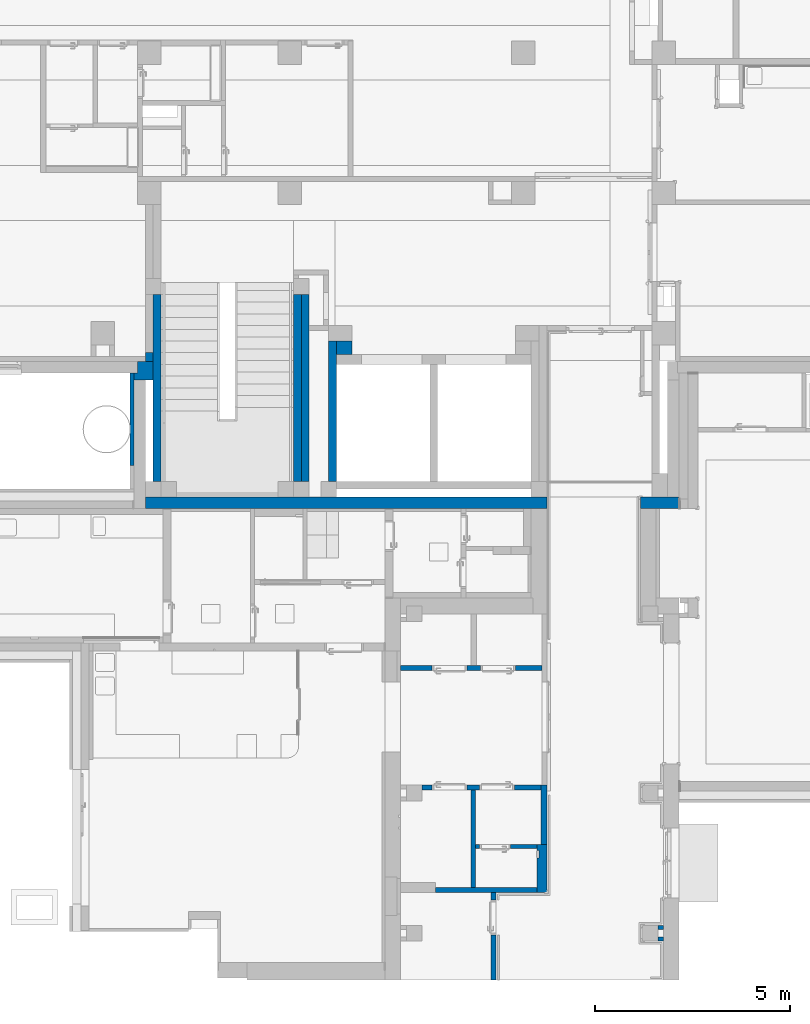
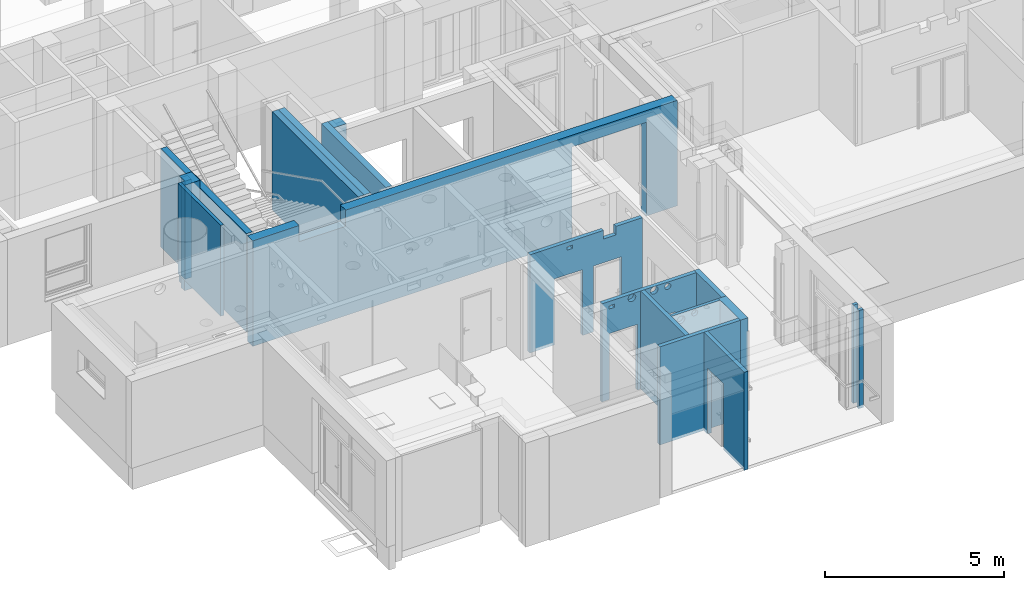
# One storey, part 29 of 140: 19 walls, 17 openings.
"""IFC4 building model written with IfcOpenShell, lengths in metres."""

from ifc_helpers import new_model, entity, si_unit, converted_unit, derived_unit, frame, frame_2d, origin, origin_with_axes, place, context, subcontext, project, spatial, polyline, rectangle, outline, extrude, material, layer, layer_set, layer_usage, element, save


model = new_model("IFC4")

# Units and contexts
model_context = context("Model", 3, precision=1e-05, world=origin())
body_context = subcontext(model_context, "Body", "Model", "MODEL_VIEW")
ifc_project = project(units=[si_unit("LENGTHUNIT", "METRE"), si_unit("AREAUNIT", "SQUARE_METRE"), si_unit("VOLUMEUNIT", "CUBIC_METRE"), si_unit("MASSUNIT", "GRAM", prefix="KILO"), converted_unit("PLANEANGLEUNIT", "DEGREE", entity("IfcPlaneAngleMeasure", 0.0174532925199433), si_unit("PLANEANGLEUNIT", "RADIAN"), dimensions=[0, 0, 0, 0, 0, 0, 0]), derived_unit("THERMALTRANSMITTANCEUNIT", [(si_unit("POWERUNIT", "WATT"), 1), (si_unit("THERMODYNAMICTEMPERATUREUNIT", "KELVIN"), -1), (si_unit("LENGTHUNIT", "METRE"), -2)]), derived_unit("VOLUMETRICFLOWRATEUNIT", [(si_unit("LENGTHUNIT", "METRE"), 3), (converted_unit("TIMEUNIT", "hour", entity("IfcTimeMeasure", 3600.0), si_unit("TIMEUNIT", "SECOND"), dimensions=[0, 0, 1, 0, 0, 0, 0]), -1), (si_unit("LENGTHUNIT", "METRE"), -1)])], contexts=[model_context])

# Site, building, storey
site_placement = place(None, origin())
site = spatial("IfcSite", under=ifc_project, at=site_placement, Name="3. ASŘ", CompositionType="ELEMENT")
building_placement = place(site_placement, origin())
building = spatial("IfcBuilding", under=site, at=building_placement, Name="Pavilon C", CompositionType="ELEMENT")
storey_placement = place(building_placement, origin())
storey = spatial("IfcBuildingStorey", under=building, at=storey_placement, Name="Půdorys 1.NP", CompositionType="ELEMENT", Elevation=0.0)

# Wall, openings
ifc_material_1 = material(Name="ZELEZOBETONOVÁ KCE")
ifc_layer_1 = layer(ifc_material_1, 0.3)
ifc_layer_set_1 = layer_set([ifc_layer_1])
ifc_layer_usage_1 = layer_usage(ifc_layer_set_1, "AXIS2", "POSITIVE", 0.0)
wall_1_placement = place(storey_placement, frame((30.65, -4.5, -0.1)))
wall_1 = element("IfcWall", 1, at=wall_1_placement, inside=storey, material=ifc_layer_usage_1, Name="ZELEZOBETONOVÁ KCE", context=body_context, shape_type="SweptSolid", body=[
    extrude(rectangle(XDim=13.7, YDim=0.3, at=frame_2d((6.85, 0.15), x_axis=(1.0, 0.0))), origin_with_axes(), (0.0, 0.0, 1.0), 3.6),
])
opening_1_placement = place(wall_1_placement, frame((10.3, 0.0, 0.0), z_axis=(0.0, 1.0, 0.0), x_axis=(0.0, 0.0, 1.0)))
element("IfcOpeningElement", 2, at=opening_1_placement, cuts=wall_1, Name="Dveřní otvor", ObjectType="Opening", context=body_context, shape_type="SweptSolid", body=[
    extrude(outline(polyline([(0.0, 2.4), (3.2, 2.4), (3.2, 0.0), (0.0, 0.0), (0.0, 2.4)])), origin_with_axes(), (0.0, 0.0, 1.0), 0.3),
])
opening_2_placement = place(wall_1_placement, frame((1.50000000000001, 0.0, 3.05), z_axis=(0.0, 1.0, 0.0), x_axis=(0.0, 0.0, 1.0)))
element("IfcOpeningElement", 3, at=opening_2_placement, cuts=wall_1, Name="Okenní otvor", ObjectType="Opening", context=body_context, shape_type="SweptSolid", body=[
    extrude(outline(polyline([(0.0, 1.5), (2.0, 1.5), (2.0, 0.0), (0.0, 0.0), (0.0, 1.5)])), origin_with_axes(), (0.0, 0.0, 1.0), 0.3),
])

# Walls
ifc_material_2 = material(Name="ZDIVO Z CDm")
ifc_layer_2 = layer(ifc_material_2, 0.35)
ifc_layer_set_2 = layer_set([ifc_layer_2])
ifc_layer_usage_2 = layer_usage(ifc_layer_set_2, "AXIS2", "POSITIVE", 0.0)
wall_2_placement = place(storey_placement, frame((35.95, -0.200000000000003, -0.1), z_axis=(0.0, 0.0, 1.0), x_axis=(-1.0, 0.0, 0.0)))
element("IfcWall", 4, at=wall_2_placement, inside=storey, material=ifc_layer_usage_2, Name="ZDIVO Z CDm", context=body_context, shape_type="SweptSolid", body=[
    extrude(rectangle(XDim=0.4, YDim=0.35, at=frame_2d((0.2, 0.175), x_axis=(1.0, 0.0))), origin_with_axes(), (0.0, 0.0, 1.0), 3.35),
])
ifc_material_3 = material(Name="ZDIVO Z CDm")
ifc_layer_3 = layer(ifc_material_3, 0.2)
ifc_layer_set_3 = layer_set([ifc_layer_3])
ifc_layer_usage_3 = layer_usage(ifc_layer_set_3, "AXIS2", "POSITIVE", 0.0)
wall_3_placement = place(storey_placement, frame((30.65, -0.499999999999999, -0.1), z_axis=(0.0, 0.0, 1.0), x_axis=(0.0, -1.0, 0.0)))
element("IfcWall", 5, at=wall_3_placement, inside=storey, material=ifc_layer_usage_3, Name="ZDIVO Z CDm", context=body_context, shape_type="SweptSolid", body=[
    extrude(rectangle(XDim=0.220000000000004, YDim=0.2, at=frame_2d((0.110000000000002, 0.1), x_axis=(1.0, 0.0))), origin_with_axes(), (0.0, 0.0, 1.0), 3.35),
])
ifc_material_4 = material(Name="ZELEZOBETONOVÁ KCE")
ifc_layer_4 = layer(ifc_material_4, 0.2)
ifc_layer_set_4 = layer_set([ifc_layer_4])
ifc_layer_usage_4 = layer_usage(ifc_layer_set_4, "AXIS2", "POSITIVE", 0.0)
wall_4_placement = place(storey_placement, frame((34.45, 1.0, -0.1), z_axis=(0.0, 0.0, 1.0), x_axis=(0.0, -1.0, 0.0)))
element("IfcWall", 6, at=wall_4_placement, inside=storey, material=ifc_layer_usage_4, Name="ZELEZOBETONOVÁ KCE", context=body_context, shape_type="SweptSolid", body=[
    extrude(rectangle(XDim=4.8, YDim=0.2, at=frame_2d((2.4, 0.1), x_axis=(1.0, 0.0))), origin_with_axes(), (0.0, 0.0, 1.0), 3.35),
])
ifc_material_5 = material(Name="ZELEZOBETONOVÁ KCE")
ifc_layer_5 = layer(ifc_material_5, 0.2)
ifc_layer_set_5 = layer_set([ifc_layer_5])
ifc_layer_usage_5 = layer_usage(ifc_layer_set_5, "AXIS2", "POSITIVE", 0.0)
wall_5_placement = place(storey_placement, frame((31.05, -3.79999999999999, -0.1), z_axis=(0.0, 0.0, 1.0), x_axis=(0.0, 1.0, 0.0)))
element("IfcWall", 7, at=wall_5_placement, inside=storey, material=ifc_layer_usage_5, Name="ZELEZOBETONOVÁ KCE", context=body_context, shape_type="SweptSolid", body=[
    extrude(rectangle(XDim=4.79999999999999, YDim=0.2, at=frame_2d((2.4, 0.1), x_axis=(1.0, 0.0))), origin_with_axes(), (0.0, 0.0, 1.0), 3.35),
])
ifc_material_6 = material(Name="ZELEZOBETONOVÁ KCE")
ifc_layer_6 = layer(ifc_material_6, 0.2)
ifc_layer_set_6 = layer_set([ifc_layer_6])
ifc_layer_usage_6 = layer_usage(ifc_layer_set_6, "AXIS2", "POSITIVE", 0.0)
wall_6_placement = place(storey_placement, frame((34.65, 1.0, -0.1), z_axis=(0.0, 0.0, 1.0), x_axis=(0.0, -1.0, 0.0)))
element("IfcWall", 8, at=wall_6_placement, inside=storey, material=ifc_layer_usage_6, Name="ZELEZOBETONOVÁ KCE", context=body_context, shape_type="SweptSolid", body=[
    extrude(rectangle(XDim=4.8, YDim=0.2, at=frame_2d((2.4, 0.1), x_axis=(1.0, 0.0))), origin_with_axes(), (0.0, 0.0, 1.0), 3.35),
])
ifc_material_7 = material(Name="ZELEZOBETONOVÁ KCE")
ifc_layer_7 = layer(ifc_material_7, 0.2)
ifc_layer_set_7 = layer_set([ifc_layer_7])
ifc_layer_usage_7 = layer_usage(ifc_layer_set_7, "AXIS2", "POSITIVE", 0.0)
wall_7_placement = place(storey_placement, frame((35.55, -3.80000000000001, -0.1), z_axis=(0.0, 0.0, 1.0), x_axis=(0.0, 1.0, 0.0)))
element("IfcWall", 9, at=wall_7_placement, inside=storey, material=ifc_layer_usage_7, Name="ZELEZOBETONOVÁ KCE", context=body_context, shape_type="SweptSolid", body=[
    extrude(rectangle(XDim=3.60000000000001, YDim=0.2, at=frame_2d((1.8, 0.1), x_axis=(1.0, 0.0))), origin_with_axes(), (0.0, 0.0, 1.0), 3.35),
])
ifc_material_8 = material(Name="ZDIVO Z CDm")
ifc_layer_8 = layer(ifc_material_8, 0.48)
ifc_layer_set_8 = layer_set([ifc_layer_8])
ifc_layer_usage_8 = layer_usage(ifc_layer_set_8, "AXIS2", "POSITIVE", 0.0)
wall_8_placement = place(storey_placement, frame((30.35, -1.2, -0.1)))
element("IfcWall", 10, at=wall_8_placement, inside=storey, material=ifc_layer_usage_8, Name="ZDIVO Z CDm", context=body_context, shape_type="SweptSolid", body=[
    extrude(outline(polyline([(0.0, 0.0), (0.5, 0.0), (0.5, 0.48), (0.1, 0.48), (0.1, 0.18), (0.0, 0.18), (0.0, 0.0)])), origin_with_axes(), (0.0, 0.0, 1.0), 3.6),
])
ifc_material_9 = material(Name="STÁVAJÍC KCE")
ifc_layer_9 = layer(ifc_material_9, 0.1)
ifc_layer_set_9 = layer_set([ifc_layer_9])
ifc_layer_usage_9 = layer_usage(ifc_layer_set_9, "AXIS2", "POSITIVE", 0.0)
wall_9_placement = place(storey_placement, frame((43.95, -15.2, -0.1), z_axis=(0.0, 0.0, 1.0), x_axis=(-1.0, 0.0, 0.0)))
element("IfcWall", 11, at=wall_9_placement, inside=storey, material=ifc_layer_usage_9, Name="STÁVAJÍCÍ KCE", context=body_context, shape_type="SweptSolid", body=[
    extrude(rectangle(XDim=0.15, YDim=0.1, at=frame_2d((0.075, 0.05), x_axis=(1.0, 0.0))), origin_with_axes(), (0.0, 0.0, 1.0), 3.35),
])
ifc_material_10 = material(Name="STÁVAJÍC KCE")
ifc_layer_10 = layer(ifc_material_10, 0.1)
ifc_layer_set_10 = layer_set([ifc_layer_10])
ifc_layer_usage_10 = layer_usage(ifc_layer_set_10, "AXIS2", "POSITIVE", 0.0)
wall_10_placement = place(storey_placement, frame((43.8, -15.6, -0.1)))
element("IfcWall", 12, at=wall_10_placement, inside=storey, material=ifc_layer_usage_10, Name="STÁVAJÍCÍ KCE", context=body_context, shape_type="SweptSolid", body=[
    extrude(rectangle(XDim=0.15, YDim=0.1, at=frame_2d((0.075, 0.05), x_axis=(1.0, 0.0))), origin_with_axes(), (0.0, 0.0, 1.0), 3.35),
])
ifc_material_11 = material(Name="EPS")
ifc_layer_11 = layer(ifc_material_11, 0.1)
ifc_layer_set_11 = layer_set([ifc_layer_11])
ifc_layer_usage_11 = layer_usage(ifc_layer_set_11, "AXIS2", "POSITIVE", 0.0)
wall_11_placement = place(storey_placement, frame((30.35, -3.4, 0.4), z_axis=(0.0, 0.0, 1.0), x_axis=(0.0, 1.0, 0.0)))
element("IfcWall", 13, at=wall_11_placement, inside=storey, material=ifc_layer_usage_11, Name="EPS", context=body_context, shape_type="SweptSolid", body=[
    extrude(rectangle(XDim=2.38, YDim=0.1, at=frame_2d((1.19, 0.05), x_axis=(1.0, 0.0))), origin_with_axes(), (0.0, 0.0, 1.0), 3.1),
])
ifc_material_12 = material(Name="SDK - 1 KCE + DVOJITÉ OPLÁŠTĚNÍ")
ifc_layer_12 = layer(ifc_material_12, 0.15)
ifc_layer_set_12 = layer_set([ifc_layer_12])
ifc_layer_usage_12 = layer_usage(ifc_layer_set_12, "AXIS2", "POSITIVE", 0.0)
wall_12_placement = place(storey_placement, frame((40.95, -13.125, -0.1), z_axis=(0.0, 0.0, 1.0), x_axis=(0.0, 1.0, 0.0)))
element("IfcWall", 14, at=wall_12_placement, inside=storey, material=ifc_layer_usage_12, Name="SDK - 1 KCE + DVOJITÉ OPLÁŠTĚNÍ", context=body_context, shape_type="SweptSolid", body=[
    extrude(rectangle(XDim=1.52500000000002, YDim=0.15, at=frame_2d((0.76250000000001, 0.075), x_axis=(1.0, 0.0))), origin_with_axes(), (0.0, 0.0, 1.0), 3.35),
])

# Wall, opening
ifc_material_13 = material(Name="SDK - 2 KCE + DVOJITÉ OPLÁŠTĚNÍ")
ifc_layer_13 = layer(ifc_material_13, 0.25)
ifc_layer_set_13 = layer_set([ifc_layer_13])
ifc_layer_usage_13 = layer_usage(ifc_layer_set_13, "AXIS2", "POSITIVE", 0.0)
wall_13_placement = place(storey_placement, frame((40.95, -14.3500000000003, -0.1), z_axis=(0.0, 0.0, 1.0), x_axis=(0.0, 1.0, 0.0)))
wall_13 = element("IfcWall", 15, at=wall_13_placement, inside=storey, material=ifc_layer_usage_13, Name="SDK - 2 KCE + DVOJITÉ OPLÁŠTĚNÍ", context=body_context, shape_type="SweptSolid", body=[
    extrude(rectangle(XDim=1.22500000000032, YDim=0.25, at=frame_2d((0.612500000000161, 0.125), x_axis=(1.0, 0.0))), origin_with_axes(), (0.0, 0.0, 1.0), 3.35),
])
opening_3_placement = place(wall_13_placement, frame((1.07499999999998, 0.25, 1.1), z_axis=(0.0, -1.0, 0.0), x_axis=(0.0, 0.0, 1.0)))
element("IfcOpeningElement", 16, at=opening_3_placement, cuts=wall_13, Name="Stěnová nika", ObjectType="Opening", context=body_context, shape_type="SweptSolid", body=[
    extrude(outline(polyline([(0.0, 0.2), (0.2, 0.2), (0.2, 0.0), (0.0, 0.0), (0.0, 0.2)])), origin_with_axes(), (0.0, 0.0, 1.0), 0.05),
])

# Walls
ifc_material_14 = material(Name="SDK - 1 KCE + DVOJITÉ OPLÁŠTĚNÍ")
ifc_layer_14 = layer(ifc_material_14, 0.125)
ifc_layer_set_14 = layer_set([ifc_layer_14])
ifc_layer_usage_14 = layer_usage(ifc_layer_set_14, "AXIS2", "POSITIVE", -0.125)
wall_14_placement = place(storey_placement, frame((40.7, -14.2250000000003, -0.1), z_axis=(0.0, 0.0, 1.0), x_axis=(-1.0, 0.0, 0.0)))
element("IfcWall", 17, at=wall_14_placement, inside=storey, material=ifc_layer_usage_14, Name="SDK - 1 KCE + DVOJITÉ OPLÁŠTĚNÍ", context=body_context, shape_type="SweptSolid", body=[
    extrude(rectangle(XDim=2.6, YDim=0.125, at=frame_2d((1.3, 0.0625), x_axis=(1.0, 0.0))), origin_with_axes(), (0.0, 0.0, 1.0), 3.35),
])
ifc_material_15 = material(Name="SDK - 1 KCE + DVOJITÉ OPLÁŠTĚNÍ")
ifc_layer_15 = layer(ifc_material_15, 0.125)
ifc_layer_set_15 = layer_set([ifc_layer_15])
ifc_layer_usage_15 = layer_usage(ifc_layer_set_15, "AXIS2", "POSITIVE", -0.075)
wall_15_placement = place(storey_placement, frame((39.125, -14.2250000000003, -0.1), z_axis=(0.0, 0.0, 1.0), x_axis=(0.0, 1.0, 0.0)))
element("IfcWall", 18, at=wall_15_placement, inside=storey, material=ifc_layer_usage_15, Name="SDK - 1 KCE + DVOJITÉ OPLÁŠTĚNÍ", context=body_context, shape_type="SweptSolid", body=[
    extrude(rectangle(XDim=2.50000000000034, YDim=0.125, at=frame_2d((1.25000000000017, 0.0625), x_axis=(1.0, 0.0))), origin_with_axes(), (0.0, 0.0, 1.0), 3.35),
])

# Wall, openings
ifc_material_16 = material(Name="SDK - 1 KCE + DVOJITÉ OPLÁŠTĚNÍ")
ifc_layer_16 = layer(ifc_material_16, 0.0999999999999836)
ifc_layer_set_16 = layer_set([ifc_layer_16])
ifc_layer_usage_16 = layer_usage(ifc_layer_set_16, "AXIS2", "POSITIVE", -0.1)
wall_16_placement = place(storey_placement, frame((40.7, -13.125, -0.1), z_axis=(0.0, 0.0, 1.0), x_axis=(-1.0, -9.00832847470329e-14, 0.0)))
wall_16 = element("IfcWall", 19, at=wall_16_placement, inside=storey, material=ifc_layer_usage_16, Name="SDK - 1 KCE + DVOJITÉ OPLÁŠTĚNÍ", context=body_context, shape_type="SweptSolid", body=[
    extrude(rectangle(XDim=1.575, YDim=0.0999999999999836, at=frame_2d((0.7875, 0.0499999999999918), x_axis=(1.0, 0.0))), origin_with_axes(), (0.0, 0.0, 1.0), 3.35),
])
opening_4_placement = place(wall_16_placement, frame((1.47500000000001, 0.0999999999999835, 0.0), z_axis=(-9.09494701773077e-14, -1.0, 0.0), x_axis=(0.0, 0.0, 1.0)))
element("IfcOpeningElement", 20, at=opening_4_placement, cuts=wall_16, Name="Dveřní otvor", ObjectType="Opening", context=body_context, shape_type="SweptSolid", body=[
    extrude(outline(polyline([(0.0, 0.8), (2.25, 0.8), (2.25, 0.0), (0.0, 0.0), (0.0, 0.8)])), origin_with_axes(), (0.0, 0.0, 1.0), 0.0999999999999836),
])
opening_5_placement = place(wall_16_placement, frame((1.14000005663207, -1.90214371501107e-14, 3.005), z_axis=(9.09494701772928e-14, 1.0, 0.0), x_axis=(0.0, 0.0, 1.0)))
element("IfcOpeningElement", 21, at=opening_5_placement, cuts=wall_16, Name="VZT", ObjectType="Opening", context=body_context, shape_type="SweptSolid", body=[
    extrude(outline(polyline([(0.12499999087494, 0.25), (0.138066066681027, 0.249315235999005), (0.150988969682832, 0.247268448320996), (0.163627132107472, 0.243882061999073), (0.175842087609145, 0.239193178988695), (0.187500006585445, 0.233253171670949), (0.198473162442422, 0.226127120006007), (0.208641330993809, 0.217893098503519), (0.217893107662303, 0.208641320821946), (0.226127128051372, 0.198473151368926), (0.233253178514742, 0.187499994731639), (0.239193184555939, 0.175842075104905), (0.243882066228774, 0.163627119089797), (0.247268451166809, 0.150988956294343), (0.249315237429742, 0.138066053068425), (0.25, 0.124999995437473), (0.249315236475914, 0.111933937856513), (0.247268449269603, 0.0990110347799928), (0.243882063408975, 0.0863728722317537), (0.239193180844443, 0.0741579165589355), (0.233253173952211, 0.0624999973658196), (0.226127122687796, 0.0515268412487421), (0.217893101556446, 0.041358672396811), (0.208641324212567, 0.0321068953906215), (0.198473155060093, 0.0238728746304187), (0.187499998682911, 0.0167468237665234), (0.175842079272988, 0.0108068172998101), (0.163627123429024, 0.00611793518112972), (0.150988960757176, 0.00273154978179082), (0.138066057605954, 0.000684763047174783), (0.125, 0.0), (0.111933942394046, 0.000684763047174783), (0.0990110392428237, 0.00273154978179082), (0.0863728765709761, 0.00611793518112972), (0.0741579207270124, 0.0108068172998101), (0.0625000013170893, 0.0167468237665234), (0.0515268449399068, 0.0238728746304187), (0.0413586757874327, 0.0321068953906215), (0.0321068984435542, 0.041358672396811), (0.0238728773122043, 0.0515268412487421), (0.0167468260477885, 0.0624999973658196), (0.0108068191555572, 0.0741579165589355), (0.00611793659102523, 0.0863728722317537), (0.00273155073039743, 0.0990110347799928), (0.000684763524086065, 0.111933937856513), (0.0, 0.124999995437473), (0.00068476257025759, 0.138066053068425), (0.00273154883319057, 0.150988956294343), (0.00611793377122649, 0.163627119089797), (0.0108068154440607, 0.175842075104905), (0.0167468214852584, 0.187499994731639), (0.0238728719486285, 0.198473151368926), (0.0321068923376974, 0.208641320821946), (0.0413586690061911, 0.217893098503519), (0.0515268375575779, 0.226127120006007), (0.0624999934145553, 0.233253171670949), (0.074157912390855, 0.239193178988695), (0.0863728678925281, 0.243882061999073), (0.0990110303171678, 0.247268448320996), (0.111933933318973, 0.249315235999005), (0.12499999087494, 0.25)])), origin_with_axes(), (0.0, 0.0, 1.0), 0.1),
])
opening_6_placement = place(wall_16_placement, frame((0.725, -5.28373112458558e-15, 3.11), z_axis=(8.98126018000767e-14, 1.0, 0.0), x_axis=(0.0, 0.0, 1.0)))
element("IfcOpeningElement", 22, at=opening_6_placement, cuts=wall_16, Name="ZTI", ObjectType="Opening", context=body_context, shape_type="SweptSolid", body=[
    extrude(outline(polyline([(0.0999999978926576, 0.2), (0.110452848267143, 0.199452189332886), (0.120791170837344, 0.197814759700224), (0.130901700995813, 0.195105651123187), (0.14067366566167, 0.191354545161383), (0.150000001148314, 0.186602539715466), (0.15877852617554, 0.180901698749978), (0.166913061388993, 0.174314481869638), (0.174314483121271, 0.166913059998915), (0.180901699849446, 0.158778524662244), (0.186602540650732, 0.149999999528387), (0.191354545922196, 0.140673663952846), (0.195105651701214, 0.130901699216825), (0.197814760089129, 0.120791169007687), (0.19945218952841, 0.110452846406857), (0.2, 0.100000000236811), (0.199452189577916, 0.0895471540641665), (0.197814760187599, 0.0792088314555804), (0.195105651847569, 0.0690983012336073), (0.191354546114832, 0.0593263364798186), (0.186602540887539, 0.0500000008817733), (0.180901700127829, 0.0412214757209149), (0.174314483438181, 0.0330869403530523), (0.166913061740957, 0.0256855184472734), (0.158778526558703, 0.0190983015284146), (0.150000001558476, 0.0133974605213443), (0.140673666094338, 0.00864545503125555), (0.130901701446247, 0.00489434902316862), (0.120791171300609, 0.00218524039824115), (0.110452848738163, 0.000547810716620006), (0.0999999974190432, 0.0), (0.0895471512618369, 0.000547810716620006), (0.0792088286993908, 0.00218524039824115), (0.069098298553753, 0.00489434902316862), (0.0593263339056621, 0.00864545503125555), (0.0499999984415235, 0.0133974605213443), (0.0412214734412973, 0.0190983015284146), (0.0330869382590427, 0.0256855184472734), (0.0256855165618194, 0.0330869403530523), (0.0190982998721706, 0.0412214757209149), (0.0133974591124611, 0.0500000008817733), (0.00864545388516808, 0.0593263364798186), (0.00489434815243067, 0.0690983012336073), (0.00218523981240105, 0.0792088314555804), (0.00054781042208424, 0.0895471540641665), (0.0, 0.100000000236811), (0.00054781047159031, 0.110452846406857), (0.00218523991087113, 0.120791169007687), (0.00489434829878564, 0.130901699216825), (0.00864545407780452, 0.140673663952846), (0.013397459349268, 0.149999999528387), (0.0190983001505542, 0.158778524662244), (0.0256855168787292, 0.166913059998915), (0.0330869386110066, 0.174314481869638), (0.0412214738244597, 0.180901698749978), (0.0499999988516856, 0.186602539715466), (0.0593263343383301, 0.191354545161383), (0.0690982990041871, 0.195105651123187), (0.0792088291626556, 0.197814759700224), (0.0895471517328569, 0.199452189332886), (0.0999999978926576, 0.2)])), origin_with_axes(), (0.0, 0.0, 1.0), 0.1),
])

ifc_material_17 = material(Name="SDK - 1 KCE + DVOJITÉ OPLÁŠTĚNÍ")
ifc_layer_17 = layer(ifc_material_17, 0.125)
ifc_layer_set_17 = layer_set([ifc_layer_17])
ifc_layer_usage_17 = layer_usage(ifc_layer_set_17, "AXIS2", "POSITIVE", -0.125)
wall_17_placement = place(storey_placement, frame((40.825, -8.525, -0.1), z_axis=(0.0, 0.0, 1.0), x_axis=(-1.0, 0.0, 0.0)))
wall_17 = element("IfcWall", 23, at=wall_17_placement, inside=storey, material=ifc_layer_usage_17, Name="SDK - 1 KCE + DVOJITÉ OPLÁŠTĚNÍ", context=body_context, shape_type="SweptSolid", body=[
    extrude(rectangle(XDim=3.625, YDim=0.125, at=frame_2d((1.8125, 0.0625), x_axis=(1.0, 0.0))), origin_with_axes(), (0.0, 0.0, 1.0), 3.35),
])
opening_7_placement = place(wall_17_placement, frame((1.92499999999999, 0.0, 0.0), z_axis=(0.0, 1.0, 0.0), x_axis=(0.0, 0.0, 1.0)))
element("IfcOpeningElement", 24, at=opening_7_placement, cuts=wall_17, Name="Dveřní otvor", ObjectType="Opening", context=body_context, shape_type="SweptSolid", body=[
    extrude(outline(polyline([(0.0, 0.9), (2.25, 0.9), (2.25, 0.0), (0.0, 0.0), (0.0, 0.9)])), origin_with_axes(), (0.0, 0.0, 1.0), 0.125),
])
opening_8_placement = place(wall_17_placement, frame((0.675, 0.0, 0.0), z_axis=(0.0, 1.0, 0.0), x_axis=(0.0, 0.0, 1.0)))
element("IfcOpeningElement", 25, at=opening_8_placement, cuts=wall_17, Name="Dveřní otvor", ObjectType="Opening", context=body_context, shape_type="SweptSolid", body=[
    extrude(outline(polyline([(0.0, 0.9), (2.25, 0.9), (2.25, 0.0), (0.0, 0.0), (0.0, 0.9)])), origin_with_axes(), (0.0, 0.0, 1.0), 0.125),
])
opening_9_placement = place(wall_17_placement, frame((2.42988110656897, 0.125, 3.09), z_axis=(0.0, -1.0, 0.0), x_axis=(0.0, 0.0, 1.0)))
element("IfcOpeningElement", 26, at=opening_9_placement, cuts=wall_17, Name="ZTI", ObjectType="Opening", context=body_context, shape_type="SweptSolid", body=[
    extrude(outline(polyline([(0.0, 0.175), (0.11, 0.175), (0.11, 0.0), (0.0, 0.0), (0.0, 0.175)])), origin_with_axes(), (0.0, 0.0, 1.0), 0.125),
])
opening_10_placement = place(wall_17_placement, frame((0.85, 0.0, 3.06), z_axis=(0.0, 1.0, 0.0), x_axis=(0.0, 0.0, 1.0)))
element("IfcOpeningElement", 27, at=opening_10_placement, cuts=wall_17, Name="VZT+ZTI", ObjectType="Opening", context=body_context, shape_type="SweptSolid", body=[
    extrude(outline(polyline([(0.0, 0.4), (0.29, 0.4), (0.29, 0.0), (0.0, 0.0), (0.0, 0.4)])), origin_with_axes(), (0.0, 0.0, 1.0), 0.125),
])

# Wall, opening
ifc_material_18 = material(Name="SDK - 1 KCE + DVOJITÉ OPLÁŠTĚNÍ")
ifc_layer_18 = layer(ifc_material_18, 0.125)
ifc_layer_set_18 = layer_set([ifc_layer_18])
ifc_layer_usage_18 = layer_usage(ifc_layer_set_18, "AXIS2", "POSITIVE", 0.0)
wall_18_placement = place(storey_placement, frame((39.65, -16.6, -0.1), z_axis=(0.0, 0.0, 1.0), x_axis=(0.0, 1.0, 0.0)))
wall_18 = element("IfcWall", 28, at=wall_18_placement, inside=storey, material=ifc_layer_usage_18, Name="SDK - 1 KCE + DVOJITÉ OPLÁŠTĚNÍ", context=body_context, shape_type="SweptSolid", body=[
    extrude(rectangle(XDim=2.24999999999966, YDim=0.125, at=frame_2d((1.12499999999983, 0.0625), x_axis=(1.0, 0.0))), origin_with_axes(), (0.0, 0.0, 1.0), 3.35),
])
opening_11_placement = place(wall_18_placement, frame((2.04999999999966, 0.125, 0.0), z_axis=(0.0, -1.0, 0.0), x_axis=(0.0, 0.0, 1.0)))
element("IfcOpeningElement", 29, at=opening_11_placement, cuts=wall_18, Name="Dveřní otvor", ObjectType="Opening", context=body_context, shape_type="SweptSolid", body=[
    extrude(outline(polyline([(0.0, 0.9), (2.25, 0.9), (2.25, 0.0), (0.0, 0.0), (0.0, 0.9)])), origin_with_axes(), (0.0, 0.0, 1.0), 0.125),
])

# Wall, openings
ifc_material_19 = material(Name="SDK - 1 KCE + DVOJITÉ OPLÁŠTĚNÍ")
ifc_layer_19 = layer(ifc_material_19, 0.125)
ifc_layer_set_19 = layer_set([ifc_layer_19])
ifc_layer_usage_19 = layer_usage(ifc_layer_set_19, "AXIS2", "POSITIVE", -0.125)
wall_19_placement = place(storey_placement, frame((37.75, -11.725, -0.1)))
wall_19 = element("IfcWall", 30, at=wall_19_placement, inside=storey, material=ifc_layer_usage_19, Name="SDK - 1 KCE + DVOJITÉ OPLÁŠTĚNÍ", context=body_context, shape_type="SweptSolid", body=[
    extrude(rectangle(XDim=3.05, YDim=0.125, at=frame_2d((1.525, 0.0625), x_axis=(1.0, 0.0))), origin_with_axes(), (0.0, 0.0, 1.0), 3.35),
])
opening_12_placement = place(wall_19_placement, frame((0.25, 0.0, 0.0), z_axis=(0.0, 1.0, 0.0), x_axis=(0.0, 0.0, 1.0)))
element("IfcOpeningElement", 31, at=opening_12_placement, cuts=wall_19, Name="Dveřní otvor", ObjectType="Opening", context=body_context, shape_type="SweptSolid", body=[
    extrude(outline(polyline([(0.0, 0.9), (2.25, 0.9), (2.25, 0.0), (0.0, 0.0), (0.0, 0.9)])), origin_with_axes(), (0.0, 0.0, 1.0), 0.125),
])
opening_13_placement = place(wall_19_placement, frame((1.475, 0.0, 0.0), z_axis=(0.0, 1.0, 0.0), x_axis=(0.0, 0.0, 1.0)))
element("IfcOpeningElement", 32, at=opening_13_placement, cuts=wall_19, Name="Dveřní otvor", ObjectType="Opening", context=body_context, shape_type="SweptSolid", body=[
    extrude(outline(polyline([(0.0, 0.9), (2.25, 0.9), (2.25, 0.0), (0.0, 0.0), (0.0, 0.9)])), origin_with_axes(), (0.0, 0.0, 1.0), 0.125),
])
opening_14_placement = place(wall_19_placement, frame((0.2225, 7.27595761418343e-15, 3.09), z_axis=(0.0, 1.0, 0.0), x_axis=(0.0, 0.0, 1.0)))
element("IfcOpeningElement", 33, at=opening_14_placement, cuts=wall_19, Name="ZTI", ObjectType="Opening", context=body_context, shape_type="SweptSolid", body=[
    extrude(outline(polyline([(0.0, 0.175), (0.11, 0.175), (0.11, 0.0), (0.0, 0.0), (0.0, 0.175)])), origin_with_axes(), (0.0, 0.0, 1.0), 0.125),
])
opening_15_placement = place(wall_19_placement, frame((1.81000001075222, 0.125000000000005, 3.09500000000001), z_axis=(0.0, -1.0, 0.0), x_axis=(0.0, 0.0, 1.0)))
element("IfcOpeningElement", 34, at=opening_15_placement, cuts=wall_19, Name="VZT", ObjectType="Opening", context=body_context, shape_type="SweptSolid", body=[
    extrude(outline(polyline([(0.124999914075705, 0.25), (0.138066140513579, 0.249315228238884), (0.150989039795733, 0.247268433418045), (0.163627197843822, 0.243882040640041), (0.175842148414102, 0.239193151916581), (0.187500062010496, 0.233253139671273), (0.198473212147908, 0.226127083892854), (0.208641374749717, 0.21789305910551), (0.21789314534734, 0.208641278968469), (0.226127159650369, 0.198473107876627), (0.233253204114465, 0.187499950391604), (0.239193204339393, 0.175842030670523), (0.243882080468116, 0.163627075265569), (0.247268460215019, 0.150988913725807), (0.24931524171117, 0.13806601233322), (0.249999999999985, 0.124999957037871), (0.249315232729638, 0.111933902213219), (0.247268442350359, 0.099011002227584), (0.243882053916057, 0.0863728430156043), (0.239193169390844, 0.0741578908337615), (0.23325316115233, 0.0624999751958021), (0.22612710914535, 0.0515268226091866), (0.21789308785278, 0.0413586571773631), (0.208641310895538, 0.0321068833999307), (0.19847314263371, 0.023872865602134), (0.18749998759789, 0.0167468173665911), (0.175842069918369, 0.01080681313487), (0.163627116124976, 0.00611793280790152), (0.150988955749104, 0.00273154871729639), (0.138066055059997, 0.000684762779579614), (0.124999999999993, 0.0), (0.111933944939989, 0.000684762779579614), (0.0990110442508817, 0.00273154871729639), (0.0863728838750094, 0.00611793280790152), (0.0741579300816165, 0.01080681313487), (0.0625000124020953, 0.0167468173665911), (0.0515268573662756, 0.023872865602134), (0.0413586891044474, 0.0321068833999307), (0.0321069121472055, 0.0413586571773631), (0.023872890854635, 0.0515268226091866), (0.0167468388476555, 0.0624999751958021), (0.0108068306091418, 0.0741578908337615), (0.00611794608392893, 0.0863728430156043), (0.00273155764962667, 0.099011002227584), (0.000684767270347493, 0.111933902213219), (0.0, 0.124999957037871), (0.000684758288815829, 0.13806601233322), (0.00273153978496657, 0.150988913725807), (0.00611791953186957, 0.163627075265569), (0.0108067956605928, 0.175842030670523), (0.0167467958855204, 0.187499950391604), (0.0238728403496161, 0.198473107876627), (0.0321068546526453, 0.208641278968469), (0.0413586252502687, 0.21789305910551), (0.0515267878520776, 0.226127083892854), (0.0624999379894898, 0.233253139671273), (0.0741578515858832, 0.239193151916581), (0.0863728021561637, 0.243882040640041), (0.0990109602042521, 0.247268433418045), (0.111933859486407, 0.249315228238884), (0.124999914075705, 0.25)])), origin_with_axes(), (0.0, 0.0, 1.0), 0.125),
])
opening_16_placement = place(wall_19_placement, frame((1.09000001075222, 0.125000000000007, 3.09500000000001), z_axis=(0.0, -1.0, 0.0), x_axis=(0.0, 0.0, 1.0)))
element("IfcOpeningElement", 35, at=opening_16_placement, cuts=wall_19, Name="VZT", ObjectType="Opening", context=body_context, shape_type="SweptSolid", body=[
    extrude(outline(polyline([(0.124999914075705, 0.25), (0.138066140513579, 0.249315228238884), (0.150989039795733, 0.247268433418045), (0.163627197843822, 0.243882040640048), (0.175842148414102, 0.239193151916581), (0.187500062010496, 0.23325313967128), (0.198473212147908, 0.226127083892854), (0.208641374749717, 0.217893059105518), (0.21789314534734, 0.208641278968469), (0.226127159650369, 0.198473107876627), (0.233253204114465, 0.187499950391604), (0.239193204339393, 0.175842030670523), (0.243882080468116, 0.163627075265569), (0.247268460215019, 0.150988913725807), (0.24931524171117, 0.13806601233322), (0.249999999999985, 0.124999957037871), (0.249315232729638, 0.111933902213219), (0.247268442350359, 0.099011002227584), (0.243882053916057, 0.0863728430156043), (0.239193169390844, 0.0741578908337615), (0.23325316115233, 0.0624999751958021), (0.22612710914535, 0.0515268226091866), (0.21789308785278, 0.0413586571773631), (0.208641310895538, 0.0321068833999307), (0.19847314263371, 0.023872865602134), (0.18749998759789, 0.0167468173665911), (0.175842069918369, 0.01080681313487), (0.163627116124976, 0.00611793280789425), (0.150988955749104, 0.00273154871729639), (0.138066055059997, 0.00068476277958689), (0.124999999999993, 0.0), (0.111933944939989, 0.00068476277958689), (0.0990110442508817, 0.00273154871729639), (0.0863728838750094, 0.00611793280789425), (0.0741579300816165, 0.01080681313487), (0.0625000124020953, 0.0167468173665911), (0.0515268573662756, 0.023872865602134), (0.0413586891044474, 0.0321068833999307), (0.0321069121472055, 0.0413586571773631), (0.023872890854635, 0.0515268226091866), (0.0167468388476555, 0.0624999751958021), (0.0108068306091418, 0.0741578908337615), (0.00611794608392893, 0.0863728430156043), (0.00273155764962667, 0.099011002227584), (0.000684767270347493, 0.111933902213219), (0.0, 0.124999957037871), (0.000684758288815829, 0.13806601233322), (0.00273153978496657, 0.150988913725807), (0.00611791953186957, 0.163627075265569), (0.0108067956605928, 0.175842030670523), (0.0167467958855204, 0.187499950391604), (0.0238728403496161, 0.198473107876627), (0.0321068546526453, 0.208641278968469), (0.0413586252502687, 0.217893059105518), (0.0515267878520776, 0.226127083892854), (0.0624999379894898, 0.23325313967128), (0.0741578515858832, 0.239193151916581), (0.0863728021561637, 0.243882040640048), (0.0990109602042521, 0.247268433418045), (0.111933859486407, 0.249315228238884), (0.124999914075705, 0.25)])), origin_with_axes(), (0.0, 0.0, 1.0), 0.125),
])
opening_17_placement = place(wall_19_placement, frame((2.225, 0.125, 3.1), z_axis=(0.0, -1.0, 0.0), x_axis=(0.0, 0.0, 1.0)))
element("IfcOpeningElement", 36, at=opening_17_placement, cuts=wall_19, Name="ZTI", ObjectType="Opening", context=body_context, shape_type="SweptSolid", body=[
    extrude(outline(polyline([(0.0999999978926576, 0.2), (0.110452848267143, 0.199452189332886), (0.120791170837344, 0.197814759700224), (0.130901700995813, 0.195105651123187), (0.14067366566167, 0.191354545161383), (0.150000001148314, 0.186602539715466), (0.15877852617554, 0.180901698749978), (0.166913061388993, 0.174314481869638), (0.174314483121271, 0.166913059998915), (0.180901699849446, 0.158778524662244), (0.186602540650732, 0.149999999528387), (0.191354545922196, 0.140673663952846), (0.195105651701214, 0.130901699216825), (0.197814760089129, 0.120791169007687), (0.19945218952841, 0.110452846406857), (0.2, 0.100000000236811), (0.199452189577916, 0.0895471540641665), (0.197814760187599, 0.0792088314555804), (0.195105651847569, 0.0690983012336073), (0.191354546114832, 0.0593263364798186), (0.186602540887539, 0.0500000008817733), (0.180901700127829, 0.0412214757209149), (0.174314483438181, 0.0330869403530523), (0.166913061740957, 0.0256855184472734), (0.158778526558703, 0.0190983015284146), (0.150000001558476, 0.0133974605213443), (0.140673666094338, 0.00864545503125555), (0.130901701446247, 0.00489434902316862), (0.120791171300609, 0.00218524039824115), (0.110452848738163, 0.000547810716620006), (0.0999999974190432, 0.0), (0.0895471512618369, 0.000547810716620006), (0.0792088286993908, 0.00218524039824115), (0.069098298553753, 0.00489434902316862), (0.0593263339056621, 0.00864545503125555), (0.0499999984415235, 0.0133974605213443), (0.0412214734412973, 0.0190983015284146), (0.0330869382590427, 0.0256855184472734), (0.0256855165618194, 0.0330869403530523), (0.0190982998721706, 0.0412214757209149), (0.0133974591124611, 0.0500000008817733), (0.00864545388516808, 0.0593263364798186), (0.00489434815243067, 0.0690983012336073), (0.00218523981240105, 0.0792088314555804), (0.00054781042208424, 0.0895471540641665), (0.0, 0.100000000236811), (0.00054781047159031, 0.110452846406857), (0.00218523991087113, 0.120791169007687), (0.00489434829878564, 0.130901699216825), (0.00864545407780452, 0.140673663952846), (0.013397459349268, 0.149999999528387), (0.0190983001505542, 0.158778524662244), (0.0256855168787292, 0.166913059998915), (0.0330869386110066, 0.174314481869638), (0.0412214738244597, 0.180901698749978), (0.0499999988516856, 0.186602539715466), (0.0593263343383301, 0.191354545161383), (0.0690982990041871, 0.195105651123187), (0.0792088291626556, 0.197814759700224), (0.0895471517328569, 0.199452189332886), (0.0999999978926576, 0.2)])), origin_with_axes(), (0.0, 0.0, 1.0), 0.125),
])

save(model, "model.ifc")
